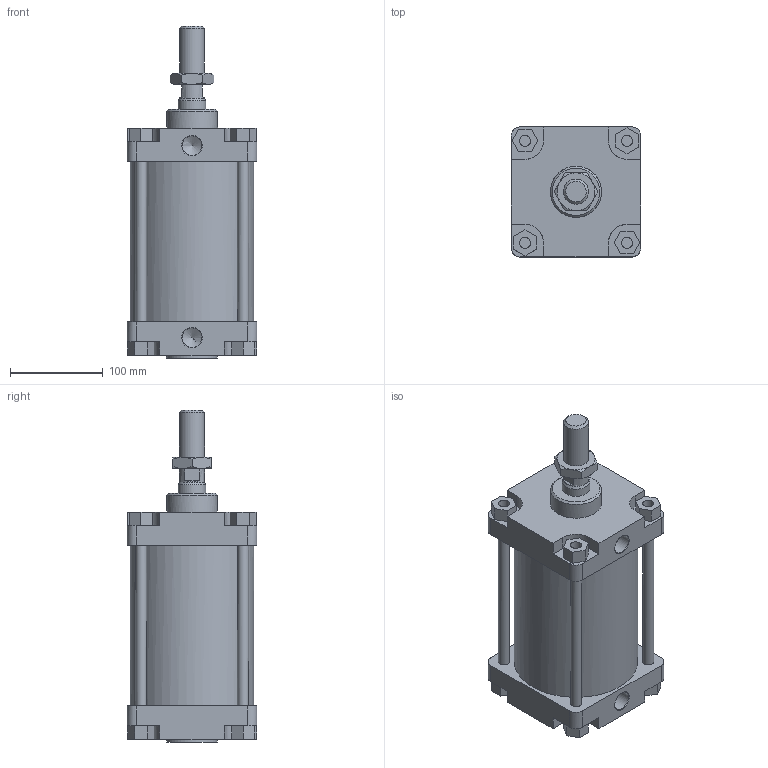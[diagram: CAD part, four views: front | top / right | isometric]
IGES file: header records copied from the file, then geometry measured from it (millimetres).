
Global section: file name: 1303_125_0100_01A; native system: Autodesk Inventor 2014; preprocessor: unknown; author: A. Manieri; date: 20161124.141501; units: millimetre
Bounding box: 140 x 140 x 358 mm (x, y, z)
Volume: 2731456.9 mm3; surface area: 395717.1 mm2
Topology: 9 solids, 9 shells, 175 faces, 440 edges, 295 vertices
Faces by surface type: bspline 175
